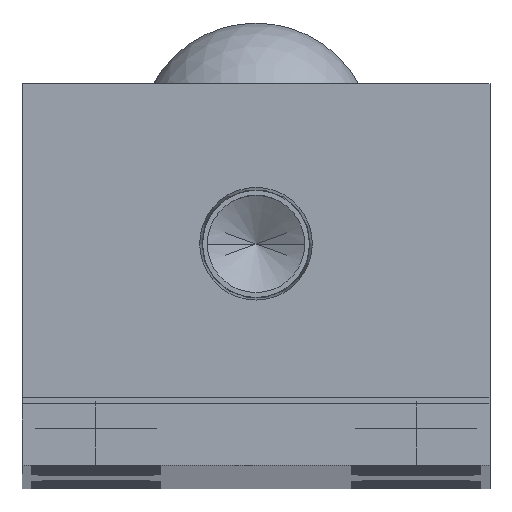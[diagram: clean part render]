
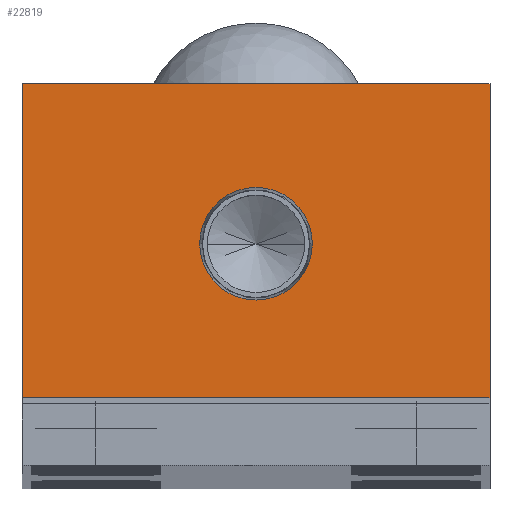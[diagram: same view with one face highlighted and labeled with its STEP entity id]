
A CAD part, top view. The second image highlights one B-rep face of the part: STEP entity #22819.
In plain terms, the highlighted planar face has unit normal (0, 0, 1).
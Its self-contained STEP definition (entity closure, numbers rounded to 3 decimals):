
#84 = VERTEX_POINT ( 'NONE', #9394 ) ;
#146 = ORIENTED_EDGE ( 'NONE', *, *, #11409, .F. ) ;
#599 = CIRCLE ( 'NONE', #18413, 4.574 ) ;
#661 = DIRECTION ( 'NONE',  ( 0., -1., 0. ) ) ;
#1112 = VERTEX_POINT ( 'NONE', #3858 ) ;
#1531 = CARTESIAN_POINT ( 'NONE',  ( -19., 5.5, 0. ) ) ;
#1833 = CARTESIAN_POINT ( 'NONE',  ( 19., 5.5, 0. ) ) ;
#2260 = CARTESIAN_POINT ( 'NONE',  ( 0., 18., 0. ) ) ;
#2478 = ORIENTED_EDGE ( 'NONE', *, *, #19592, .F. ) ;
#3858 = CARTESIAN_POINT ( 'NONE',  ( -4.574, 18., 0. ) ) ;
#4175 = DIRECTION ( 'NONE',  ( 1., 0., 0. ) ) ;
#4765 = AXIS2_PLACEMENT_3D ( 'NONE', #19670, #8315, #21554 ) ;
#5146 = ORIENTED_EDGE ( 'NONE', *, *, #19062, .T. ) ;
#5729 = CIRCLE ( 'NONE', #4765, 4.574 ) ;
#6178 = ORIENTED_EDGE ( 'NONE', *, *, #21885, .T. ) ;
#6306 = VERTEX_POINT ( 'NONE', #24265 ) ;
#6408 = CARTESIAN_POINT ( 'NONE',  ( 0., 0., 0. ) ) ;
#6925 = VECTOR ( 'NONE', #661, 1000. ) ;
#8313 = DIRECTION ( 'NONE',  ( 1., 0., 0. ) ) ;
#8315 = DIRECTION ( 'NONE',  ( 0., 0., 1. ) ) ;
#8666 = AXIS2_PLACEMENT_3D ( 'NONE', #6408, #19668, #8313 ) ;
#8872 = VERTEX_POINT ( 'NONE', #18659 ) ;
#9394 = CARTESIAN_POINT ( 'NONE',  ( 19., 31., 0. ) ) ;
#10103 = CARTESIAN_POINT ( 'NONE',  ( -19., 31., 0. ) ) ;
#10385 = LINE ( 'NONE', #12880, #14808 ) ;
#11180 = EDGE_CURVE ( 'NONE', #6306, #84, #10385, .T. ) ;
#11409 = EDGE_CURVE ( 'NONE', #1112, #16700, #599, .T. ) ;
#12706 = CARTESIAN_POINT ( 'NONE',  ( 19., 31., 0. ) ) ;
#12880 = CARTESIAN_POINT ( 'NONE',  ( 19., 5.5, 0. ) ) ;
#14793 = EDGE_CURVE ( 'NONE', #17828, #6306, #23805, .T. ) ;
#14808 = VECTOR ( 'NONE', #22259, 1000. ) ;
#14812 = EDGE_LOOP ( 'NONE', ( #2478, #146 ) ) ;
#15516 = DIRECTION ( 'NONE',  ( 0., 0., 1. ) ) ;
#15994 = VECTOR ( 'NONE', #24043, 1000. ) ;
#16700 = VERTEX_POINT ( 'NONE', #16856 ) ;
#16856 = CARTESIAN_POINT ( 'NONE',  ( 4.574, 18., 0. ) ) ;
#17010 = DIRECTION ( 'NONE',  ( 1., 0., 0. ) ) ;
#17784 = PLANE ( 'NONE',  #8666 ) ;
#17828 = VERTEX_POINT ( 'NONE', #1531 ) ;
#18413 = AXIS2_PLACEMENT_3D ( 'NONE', #2260, #15516, #4175 ) ;
#18659 = CARTESIAN_POINT ( 'NONE',  ( -19., 31., 0. ) ) ;
#18688 = FACE_OUTER_BOUND ( 'NONE', #20051, .T. ) ;
#18826 = VECTOR ( 'NONE', #17010, 1000. ) ;
#19062 = EDGE_CURVE ( 'NONE', #8872, #17828, #22022, .T. ) ;
#19592 = EDGE_CURVE ( 'NONE', #16700, #1112, #5729, .T. ) ;
#19668 = DIRECTION ( 'NONE',  ( 0., 0., 1. ) ) ;
#19670 = CARTESIAN_POINT ( 'NONE',  ( 0., 18., 0. ) ) ;
#20051 = EDGE_LOOP ( 'NONE', ( #22312, #21842, #6178, #5146 ) ) ;
#21000 = LINE ( 'NONE', #12706, #15994 ) ;
#21554 = DIRECTION ( 'NONE',  ( 1., 0., 0. ) ) ;
#21842 = ORIENTED_EDGE ( 'NONE', *, *, #11180, .T. ) ;
#21885 = EDGE_CURVE ( 'NONE', #84, #8872, #21000, .T. ) ;
#22022 = LINE ( 'NONE', #10103, #6925 ) ;
#22259 = DIRECTION ( 'NONE',  ( 0., 1., 0. ) ) ;
#22312 = ORIENTED_EDGE ( 'NONE', *, *, #14793, .T. ) ;
#22819 = ADVANCED_FACE ( 'NONE', ( #23062, #18688 ), #17784, .T. ) ;
#23062 = FACE_BOUND ( 'NONE', #14812, .T. ) ;
#23805 = LINE ( 'NONE', #1833, #18826 ) ;
#24043 = DIRECTION ( 'NONE',  ( -1., 0., 0. ) ) ;
#24265 = CARTESIAN_POINT ( 'NONE',  ( 19., 5.5, 0. ) ) ;
